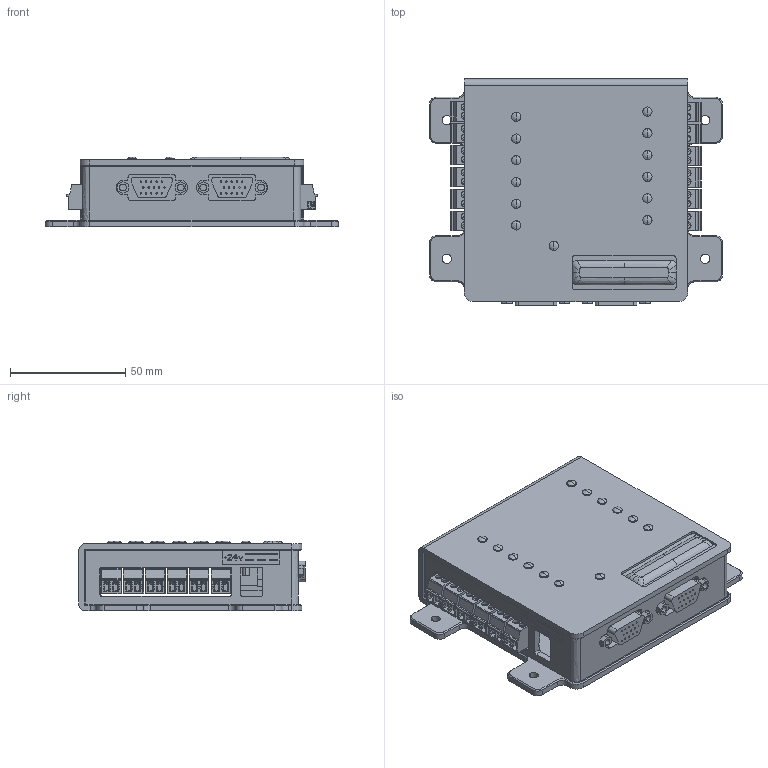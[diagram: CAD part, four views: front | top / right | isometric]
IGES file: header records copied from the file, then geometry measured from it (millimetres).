
Start section:  PTC IGES file: 6159363270.igs
Global section: file name: 6159363270.igs; native system: Creo Parametric by PTC Inc.; preprocessor: 2017170; author: greextsd; organization: Unknown; date: 20171214.115010; units: millimetre
Bounding box: 126.88 x 98.2 x 30.3 mm (x, y, z)
Volume: 100085.5 mm3; surface area: 73219.9 mm2
Topology: 13 solids, 13 shells, 3217 faces, 8637 edges, 5625 vertices
Faces by surface type: bspline 1749, revolution 1468
